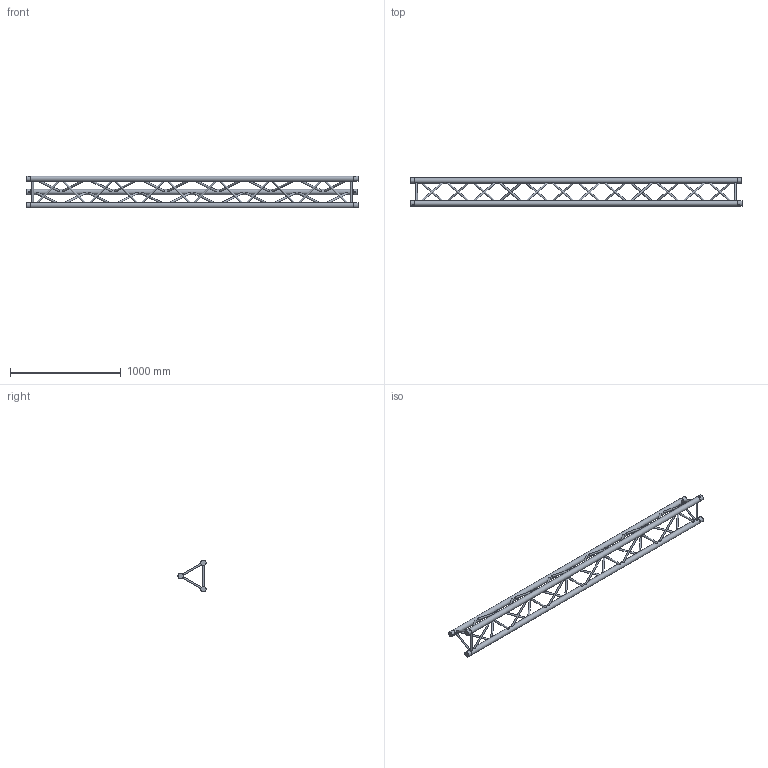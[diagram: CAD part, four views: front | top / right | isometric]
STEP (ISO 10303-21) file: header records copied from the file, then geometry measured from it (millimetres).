
FILE_DESCRIPTION(/* description */ (''),/* implementation_level */ '2;1');
FILE_NAME(/* name */ 'M:\Symbolen\STP\30-er truss\111050027.stp',/* time_stamp */ '2014-12-03T13:06:11+01:00',/* author */ ('Stephan'),/* organization */ (''),/* preprocessor_version */ 'ST-DEVELOPER v15.6',/* originating_system */ 'Autodesk Inventor 2015',/* authorisation */ '');
FILE_SCHEMA (('AUTOMOTIVE_DESIGN { 1 0 10303 214 3 1 1 }'));
Length unit declared in the file: millimetre
Products named in the file (1): 160023780
Bounding box: 3000 x 255.28 x 287.3 mm (x, y, z)
Volume: 15585052.8 mm3; surface area: 1955532.2 mm2
Topology: 15 solids, 45 shells, 279 faces, 513 edges, 324 vertices
Faces by surface type: plane 180, cylinder 93, cone 6
Full cylindrical faces by diameter (mm): 10 x6, 16 x42, 48.3 x9
Entity records: 7200 total; most frequent: CARTESIAN_POINT 1720, DIRECTION 992, ORIENTED_EDGE 912, AXIS2_PLACEMENT_3D 436, EDGE_LOOP 408, EDGE_CURVE 408, VERTEX_POINT 288, STYLED_ITEM 244
